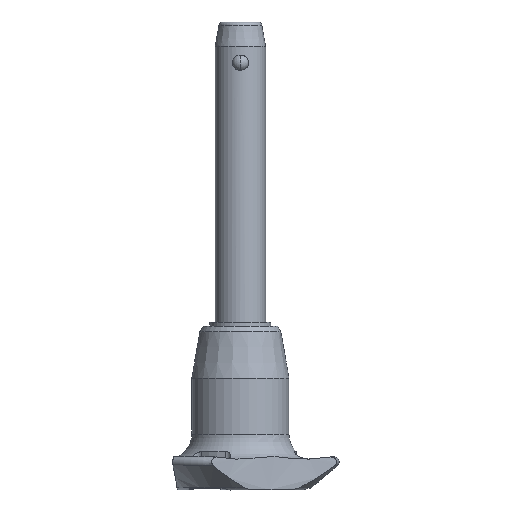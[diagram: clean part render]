
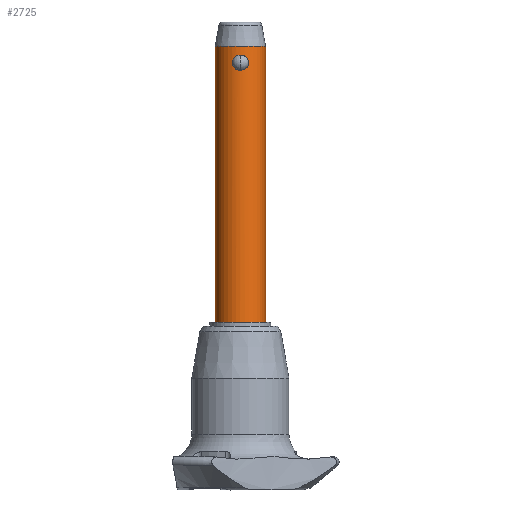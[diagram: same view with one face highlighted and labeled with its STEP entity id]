
A CAD part, front view. The second image highlights one B-rep face of the part: STEP entity #2725.
In plain terms, the highlighted cylindrical face has radius 5 mm (diameter 10 mm), a partial arc.
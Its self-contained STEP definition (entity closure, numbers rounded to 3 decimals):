
#2 = CARTESIAN_POINT ( 'NONE',  ( -1.383, -4.805, 2.299 ) ) ;
#12 = CARTESIAN_POINT ( 'NONE',  ( -1.264, -4.838, 2.464 ) ) ;
#46 = B_SPLINE_CURVE_WITH_KNOTS ( 'NONE', 3,
 ( #667, #210, #1278, #451, #1074, #1908, #2558, #1064, #12, #2, #2151, #233, #1500, #853, #1704, #2355, #2573, #650, #1732, #868, #1485, #2344, #437, #2142, #222, #1721 ),
 .UNSPECIFIED., .F., .F.,
 ( 4, 2, 2, 2, 2, 2, 2, 2, 2, 2, 2, 2, 4 ),
 ( 0., 0.001, 0.001, 0.001, 0.002, 0.002, 0.002, 0.003, 0.003, 0.004, 0.004, 0.004, 0.005 ),
 .UNSPECIFIED. ) ;
#47 = FACE_OUTER_BOUND ( 'NONE', #167, .T. ) ;
#52 = CARTESIAN_POINT ( 'NONE',  ( 0.699, -4.952, 0.144 ) ) ;
#111 = CARTESIAN_POINT ( 'NONE',  ( 5., 0., 4.8 ) ) ;
#113 = VERTEX_POINT ( 'NONE', #175 ) ;
#167 = EDGE_LOOP ( 'NONE', ( #2034, #281, #745, #789 ) ) ;
#175 = CARTESIAN_POINT ( 'NONE',  ( 5., 0., -50. ) ) ;
#210 = CARTESIAN_POINT ( 'NONE',  ( -0.208, -5., 3.033 ) ) ;
#222 = CARTESIAN_POINT ( 'NONE',  ( -0.205, -5., 0. ) ) ;
#229 = VERTEX_POINT ( 'NONE', #2605 ) ;
#233 = CARTESIAN_POINT ( 'NONE',  ( -1.56, -4.751, 1.931 ) ) ;
#281 = ORIENTED_EDGE ( 'NONE', *, *, #1556, .F. ) ;
#292 = VERTEX_POINT ( 'NONE', #2149 ) ;
#294 = ORIENTED_EDGE ( 'NONE', *, *, #1543, .F. ) ;
#297 = CARTESIAN_POINT ( 'NONE',  ( 1.196, -4.855, 0.493 ) ) ;
#437 = CARTESIAN_POINT ( 'NONE',  ( -0.699, -4.952, 0.145 ) ) ;
#451 = CARTESIAN_POINT ( 'NONE',  ( -0.7, -4.952, 2.888 ) ) ;
#456 = EDGE_LOOP ( 'NONE', ( #1350, #294 ) ) ;
#471 = CYLINDRICAL_SURFACE ( 'NONE', #1577, 5. ) ;
#500 = CARTESIAN_POINT ( 'NONE',  ( 1.434, -4.79, 0.822 ) ) ;
#530 = CARTESIAN_POINT ( 'NONE',  ( 0.208, -5., 3.033 ) ) ;
#543 = CARTESIAN_POINT ( 'NONE',  ( 1.604, -4.736, 1.619 ) ) ;
#650 = CARTESIAN_POINT ( 'NONE',  ( -1.394, -4.802, 0.731 ) ) ;
#667 = CARTESIAN_POINT ( 'NONE',  ( 0., -5., 3.033 ) ) ;
#711 = CARTESIAN_POINT ( 'NONE',  ( 0., 0., -50. ) ) ;
#727 = CARTESIAN_POINT ( 'NONE',  ( 1.56, -4.751, 1.103 ) ) ;
#743 = CARTESIAN_POINT ( 'NONE',  ( 1.384, -4.805, 0.735 ) ) ;
#745 = ORIENTED_EDGE ( 'NONE', *, *, #2413, .T. ) ;
#789 = ORIENTED_EDGE ( 'NONE', *, *, #1675, .T. ) ;
#853 = CARTESIAN_POINT ( 'NONE',  ( -1.604, -4.736, 1.416 ) ) ;
#868 = CARTESIAN_POINT ( 'NONE',  ( -1.047, -4.89, 0.357 ) ) ;
#904 = CARTESIAN_POINT ( 'NONE',  ( 1.265, -4.838, 0.57 ) ) ;
#944 = CARTESIAN_POINT ( 'NONE',  ( 1.047, -4.89, 0.356 ) ) ;
#958 = CIRCLE ( 'NONE', #2520, 5. ) ;
#964 = CARTESIAN_POINT ( 'NONE',  ( 0.792, -4.938, 0.19 ) ) ;
#1064 = CARTESIAN_POINT ( 'NONE',  ( -1.197, -4.855, 2.539 ) ) ;
#1074 = CARTESIAN_POINT ( 'NONE',  ( -0.791, -4.938, 2.844 ) ) ;
#1132 = CARTESIAN_POINT ( 'NONE',  ( 1.395, -4.802, 2.301 ) ) ;
#1143 = CARTESIAN_POINT ( 'NONE',  ( 0.966, -4.907, 2.738 ) ) ;
#1202 = DIRECTION ( 'NONE',  ( 0., 0., 1. ) ) ;
#1216 = VECTOR ( 'NONE', #2442, 1000. ) ;
#1278 = CARTESIAN_POINT ( 'NONE',  ( -0.412, -4.987, 2.997 ) ) ;
#1338 = CARTESIAN_POINT ( 'NONE',  ( 1.594, -4.739, 1.721 ) ) ;
#1350 = ORIENTED_EDGE ( 'NONE', *, *, #2530, .F. ) ;
#1355 = CARTESIAN_POINT ( 'NONE',  ( 1.519, -4.764, 2.021 ) ) ;
#1406 = CARTESIAN_POINT ( 'NONE',  ( 0., -5., 3.033 ) ) ;
#1413 = LINE ( 'NONE', #1658, #1434 ) ;
#1434 = VECTOR ( 'NONE', #1202, 1000. ) ;
#1447 = DIRECTION ( 'NONE',  ( 0., 0., -1. ) ) ;
#1485 = CARTESIAN_POINT ( 'NONE',  ( -0.966, -4.907, 0.296 ) ) ;
#1492 = VERTEX_POINT ( 'NONE', #2394 ) ;
#1500 = CARTESIAN_POINT ( 'NONE',  ( -1.604, -4.736, 1.724 ) ) ;
#1517 = FACE_BOUND ( 'NONE', #456, .T. ) ;
#1543 = EDGE_CURVE ( 'NONE', #1492, #2653, #2580, .T. ) ;
#1556 = EDGE_CURVE ( 'NONE', #113, #229, #2071, .T. ) ;
#1577 = AXIS2_PLACEMENT_3D ( 'NONE', #711, #2616, #2159 ) ;
#1582 = CARTESIAN_POINT ( 'NONE',  ( 0.412, -4.987, 2.996 ) ) ;
#1587 = LINE ( 'NONE', #2022, #1216 ) ;
#1597 = CARTESIAN_POINT ( 'NONE',  ( 1.604, -4.736, 1.308 ) ) ;
#1636 = DIRECTION ( 'NONE',  ( 1., 0., 0. ) ) ;
#1658 = CARTESIAN_POINT ( 'NONE',  ( -5., 0., -50. ) ) ;
#1675 = EDGE_CURVE ( 'NONE', #2424, #292, #958, .T. ) ;
#1704 = CARTESIAN_POINT ( 'NONE',  ( -1.594, -4.739, 1.312 ) ) ;
#1721 = CARTESIAN_POINT ( 'NONE',  ( 0., -5., 0. ) ) ;
#1732 = CARTESIAN_POINT ( 'NONE',  ( -1.272, -4.838, 0.564 ) ) ;
#1789 = CARTESIAN_POINT ( 'NONE',  ( 1.048, -4.889, 2.676 ) ) ;
#1806 = CARTESIAN_POINT ( 'NONE',  ( 0.966, -4.907, 0.296 ) ) ;
#1830 = CARTESIAN_POINT ( 'NONE',  ( 0., 0., 4.8 ) ) ;
#1908 = CARTESIAN_POINT ( 'NONE',  ( -0.965, -4.907, 2.738 ) ) ;
#1993 = CARTESIAN_POINT ( 'NONE',  ( 1.272, -4.838, 2.47 ) ) ;
#2003 = CARTESIAN_POINT ( 'NONE',  ( 0.792, -4.938, 2.844 ) ) ;
#2022 = CARTESIAN_POINT ( 'NONE',  ( 5., 0., -50. ) ) ;
#2034 = ORIENTED_EDGE ( 'NONE', *, *, #2211, .F. ) ;
#2071 = CIRCLE ( 'NONE', #2122, 5. ) ;
#2086 = CARTESIAN_POINT ( 'NONE',  ( 0., -5., 3.033 ) ) ;
#2122 = AXIS2_PLACEMENT_3D ( 'NONE', #2262, #1447, #1636 ) ;
#2142 = CARTESIAN_POINT ( 'NONE',  ( -0.412, -4.987, 0.037 ) ) ;
#2149 = CARTESIAN_POINT ( 'NONE',  ( -5., 0., 4.8 ) ) ;
#2151 = CARTESIAN_POINT ( 'NONE',  ( -1.435, -4.79, 2.209 ) ) ;
#2159 = DIRECTION ( 'NONE',  ( 1., 0., 0. ) ) ;
#2211 = EDGE_CURVE ( 'NONE', #229, #292, #1413, .T. ) ;
#2212 = CARTESIAN_POINT ( 'NONE',  ( 0.412, -4.987, 0.037 ) ) ;
#2262 = CARTESIAN_POINT ( 'NONE',  ( 0., 0., -50. ) ) ;
#2344 = CARTESIAN_POINT ( 'NONE',  ( -0.792, -4.938, 0.19 ) ) ;
#2355 = CARTESIAN_POINT ( 'NONE',  ( -1.551, -4.753, 1.11 ) ) ;
#2394 = CARTESIAN_POINT ( 'NONE',  ( 0., -5., 0. ) ) ;
#2413 = EDGE_CURVE ( 'NONE', #113, #2424, #1587, .T. ) ;
#2424 = VERTEX_POINT ( 'NONE', #111 ) ;
#2438 = CARTESIAN_POINT ( 'NONE',  ( 1.551, -4.753, 1.922 ) ) ;
#2442 = DIRECTION ( 'NONE',  ( 0., 0., 1. ) ) ;
#2520 = AXIS2_PLACEMENT_3D ( 'NONE', #1830, #2700, #2685 ) ;
#2530 = EDGE_CURVE ( 'NONE', #2653, #1492, #46, .T. ) ;
#2558 = CARTESIAN_POINT ( 'NONE',  ( -1.047, -4.89, 2.676 ) ) ;
#2573 = CARTESIAN_POINT ( 'NONE',  ( -1.519, -4.764, 1.013 ) ) ;
#2580 = B_SPLINE_CURVE_WITH_KNOTS ( 'NONE', 3,
 ( #2631, #2619, #2212, #52, #964, #1806, #944, #297, #904, #743, #500, #727, #1597, #543, #1338, #2438, #1355, #1132, #1993, #1789, #1143, #2003, #2646, #1582, #530, #1406 ),
 .UNSPECIFIED., .F., .F.,
 ( 4, 2, 2, 2, 2, 2, 2, 2, 2, 2, 2, 2, 4 ),
 ( 0.005, 0.006, 0.006, 0.006, 0.006, 0.007, 0.007, 0.008, 0.008, 0.009, 0.009, 0.009, 0.01 ),
 .UNSPECIFIED. ) ;
#2605 = CARTESIAN_POINT ( 'NONE',  ( -5., 0., -50. ) ) ;
#2616 = DIRECTION ( 'NONE',  ( 0., 0., 1. ) ) ;
#2619 = CARTESIAN_POINT ( 'NONE',  ( 0.205, -5., 0. ) ) ;
#2631 = CARTESIAN_POINT ( 'NONE',  ( 0., -5., 0. ) ) ;
#2646 = CARTESIAN_POINT ( 'NONE',  ( 0.7, -4.952, 2.888 ) ) ;
#2653 = VERTEX_POINT ( 'NONE', #2086 ) ;
#2685 = DIRECTION ( 'NONE',  ( 1., 0., 0. ) ) ;
#2700 = DIRECTION ( 'NONE',  ( 0., 0., -1. ) ) ;
#2725 = ADVANCED_FACE ( 'NONE', ( #47, #1517 ), #471, .T. ) ;
